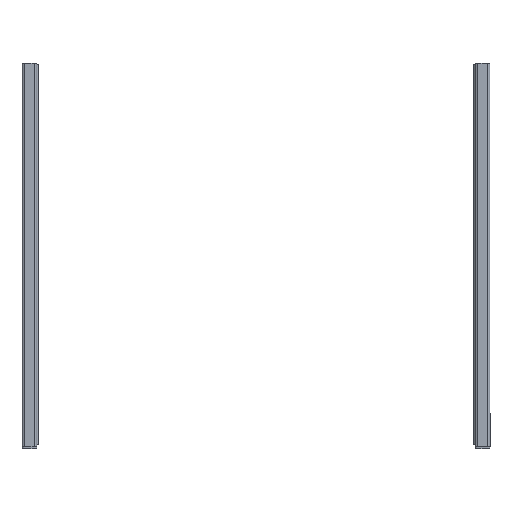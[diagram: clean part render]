
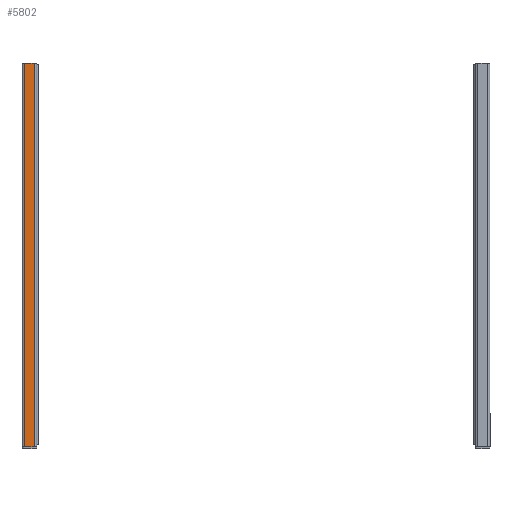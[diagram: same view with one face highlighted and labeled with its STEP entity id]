
A CAD part, front view. The second image highlights one B-rep face of the part: STEP entity #5802.
In plain terms, the highlighted planar face has unit normal (0, -1, 0).
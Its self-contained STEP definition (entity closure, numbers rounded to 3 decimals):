
#580=FACE_OUTER_BOUND('',#894,.T.);
#894=EDGE_LOOP('',(#4134,#4135,#4136,#4137));
#1350=LINE('',#8749,#1939);
#1351=LINE('',#8752,#1940);
#1352=LINE('',#8754,#1941);
#1353=LINE('',#8755,#1942);
#1939=VECTOR('',#7061,298.5);
#1940=VECTOR('',#7064,7.5);
#1941=VECTOR('',#7065,298.5);
#1942=VECTOR('',#7066,7.5);
#2503=VERTEX_POINT('',#8743);
#2505=VERTEX_POINT('',#8747);
#2506=VERTEX_POINT('',#8751);
#2507=VERTEX_POINT('',#8753);
#3144=EDGE_CURVE('',#2503,#2505,#1350,.T.);
#3145=EDGE_CURVE('',#2506,#2505,#1351,.T.);
#3146=EDGE_CURVE('',#2506,#2507,#1352,.T.);
#3147=EDGE_CURVE('',#2503,#2507,#1353,.T.);
#4134=ORIENTED_EDGE('',*,*,#3144,.T.);
#4135=ORIENTED_EDGE('',*,*,#3145,.F.);
#4136=ORIENTED_EDGE('',*,*,#3146,.T.);
#4137=ORIENTED_EDGE('',*,*,#3147,.F.);
#5400=PLANE('',#6160);
#5802=ADVANCED_FACE('',(#580),#5400,.T.);
#6160=AXIS2_PLACEMENT_3D('',#8750,#7062,#7063);
#7061=DIRECTION('',(0.,0.,1.));
#7062=DIRECTION('center_axis',(0.,-1.,0.));
#7063=DIRECTION('ref_axis',(-1.,0.,0.));
#7064=DIRECTION('',(1.,0.,0.));
#7065=DIRECTION('',(0.,0.,-1.));
#7066=DIRECTION('',(-1.,0.,0.));
#8743=CARTESIAN_POINT('',(9.5,-22.75,-298.5));
#8747=CARTESIAN_POINT('',(9.5,-22.75,0.));
#8749=CARTESIAN_POINT('',(9.5,-22.75,0.));
#8750=CARTESIAN_POINT('Origin',(11.5,-22.75,0.));
#8751=CARTESIAN_POINT('',(2.,-22.75,0.));
#8752=CARTESIAN_POINT('',(0.,-22.75,0.));
#8753=CARTESIAN_POINT('',(2.,-22.75,-298.5));
#8754=CARTESIAN_POINT('',(2.,-22.75,0.));
#8755=CARTESIAN_POINT('',(0.,-22.75,-298.5));
